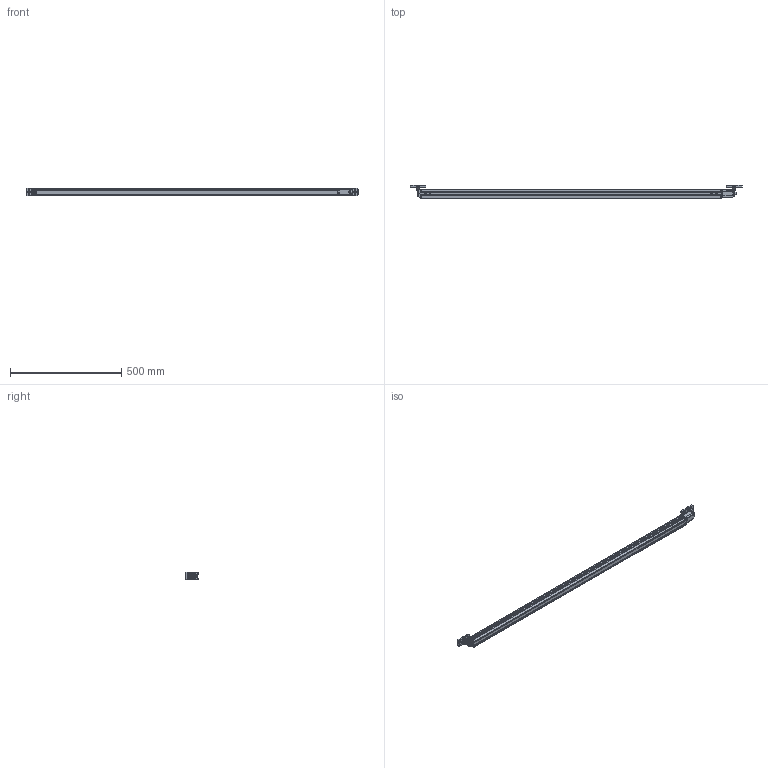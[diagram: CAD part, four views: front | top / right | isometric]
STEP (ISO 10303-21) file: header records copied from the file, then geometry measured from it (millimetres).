
FILE_DESCRIPTION((''),'2;1');
FILE_NAME('M:\INVENTORjob\Konstruktion\LV6036\Freigabe\Bauraummodelle\Geräte\stp\MLC_R_1350 EX-V2.stp','2016-02-05T10:38:22',('phaberl'),(''),'Autodesk Inventor 2009','Autodesk Inventor 2009','');
FILE_SCHEMA(('AUTOMOTIVE_DESIGN { 1 0 10303 214 1 1 1 1 }'));
Length unit declared in the file: millimetre
Products named in the file (15): MLC_R_1350 EX-V2; Anschlusskappe_R; Profil MLC 1350 EX-V2; Endkappe_R; BT-R_Zubehör; Wandteil_Zubehör; Klemmring_BT-R_Zubehör; DIN 912 - ersetzt durch DIN EN ISO 4762 M5 x 12; DIN 934 - ersetzt durch DIN EN 24032/28673/28674 M5; DIN 6912 M5 x 30; Zylinder_Zubehör; DIN 7991 - ersetzt durch DIN EN ISO 10642 M6  x  10; Nutenstein M6; EX-Ring Endkappe-R-V2; EX-Ring Anschlusskappe-R-V2
Assembly tree (18 placements, depth 3):
  MLC_R_1350 EX-V2
    Anschlusskappe_R
    Profil MLC 1350 EX-V2
    Endkappe_R
    BT-R_Zubehör  x2
      Wandteil_Zubehör
      Klemmring_BT-R_Zubehör
      DIN 912 - ersetzt durch DIN EN ISO 4762 M5 x 12
      DIN 934 - ersetzt durch DIN EN 24032/28673/28674 M5
      DIN 6912 M5 x 30
    Zylinder_Zubehör
    DIN 7991 - ersetzt durch DIN EN ISO 10642 M6  x  10
    Nutenstein M6  x2
    EX-Ring Endkappe-R-V2
    EX-Ring Anschlusskappe-R-V2
Bounding box: 1489.15 x 59.5 x 34 mm (x, y, z)
Volume: 1437218.5 mm3; surface area: 294567.6 mm2
Topology: 23 solids, 23 shells, 927 faces, 2463 edges, 1569 vertices
Faces by surface type: plane 400, cylinder 295, bspline 121, torus 47, cone 46, sphere 18
Full cylindrical faces by diameter (mm): 2.5 x2, 4.65 x2, 5 x12, 5.18 x2, 5.55 x2, 6 x1, 6.2 x9, 8.5 x4, 8.6 x2, 11.34 x1, 12 x2, 18 x1, 22.5 x1
Entity records: 17363 total; most frequent: CARTESIAN_POINT 5066, ORIENTED_EDGE 2498, DIRECTION 2409, EDGE_CURVE 1249, AXIS2_PLACEMENT_3D 858, VERTEX_POINT 833, VECTOR 693, LINE 693
